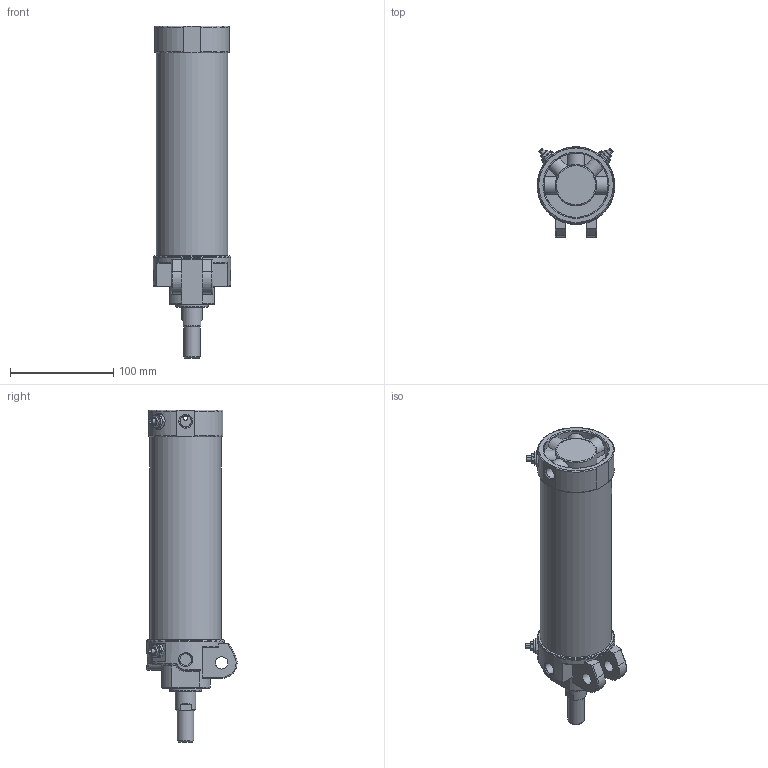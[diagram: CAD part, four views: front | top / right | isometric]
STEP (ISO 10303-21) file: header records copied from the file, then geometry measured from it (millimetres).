
FILE_DESCRIPTION((''),'2;1');
FILE_NAME('I:\3D電子目錄\氣缸\DCK\DCK\DCK-1B-63x150.stp','2008-02-26T15:19:36',('Administrator'),(''),'Autodesk Inventor 11','Autodesk Inventor 11','');
FILE_SCHEMA(('AUTOMOTIVE_DESIGN { 1 0 10303 214 1 1 1 1 }'));
Length unit declared in the file: millimetre
Products named in the file (6): DCK-1B-63; 緩衝針; 緩衝針-1; 緩衝針-201; 緩衝針-3
Assembly tree (8 placements, depth 3):
  DCK-1B-63
    DCK-1B-63
    緩衝針  x4
      緩衝針-1
      緩衝針-201
      緩衝針-3
Bounding box: 75 x 87.29 x 321 mm (x, y, z)
Volume: 358508.6 mm3; surface area: 157110.7 mm2
Topology: 16 solids, 16 shells, 588 faces, 1291 edges, 803 vertices
Faces by surface type: plane 217, cylinder 167, cone 131, torus 42, bspline 31
Full cylindrical faces by diameter (mm): 2 x1, 3 x2, 3.8 x2, 4 x6, 4.6 x4, 5 x8, 5.1 x4, 5.2 x12, 5.5 x4, 7 x1, 7.25 x1, 7.9 x4, 8 x2, 11.3 x3, 12 x2, 12.8 x4, 16 x2, 20 x1, 21 x1, 22 x2, 23 x1, 24.7 x1, 26 x1, 27 x1, 28 x1, 29 x1, 31 x1, 33 x1, 62 x1, 62.7 x1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
Entity records: 12345 total; most frequent: CARTESIAN_POINT 5236, DIRECTION 1435, ORIENTED_EDGE 1302, EDGE_CURVE 651, AXIS2_PLACEMENT_3D 626, EDGE_LOOP 507, VERTEX_POINT 468, FACE_OUTER_BOUND 339
